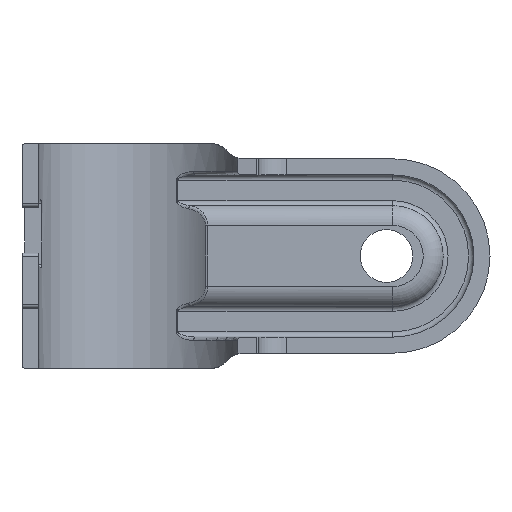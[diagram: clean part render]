
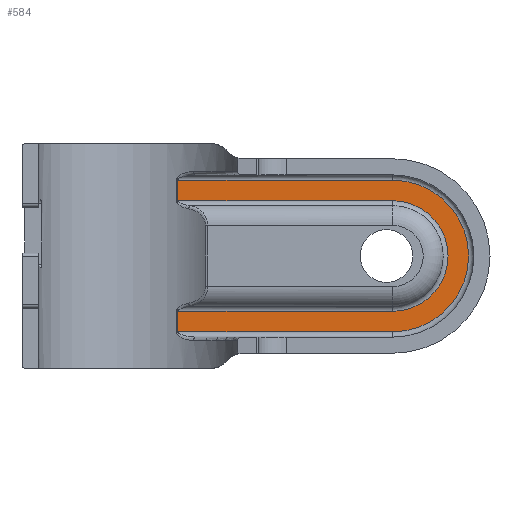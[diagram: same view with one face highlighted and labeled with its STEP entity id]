
A CAD part, front view. The second image highlights one B-rep face of the part: STEP entity #584.
In plain terms, the highlighted planar face has unit normal (0, -1, 0).
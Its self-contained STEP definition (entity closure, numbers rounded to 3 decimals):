
#36 = VECTOR ( 'NONE', #1187, 1000. ) ;
#316 = VERTEX_POINT ( 'NONE', #1437 ) ;
#330 = ORIENTED_EDGE ( 'NONE', *, *, #1607, .T. ) ;
#335 = CARTESIAN_POINT ( 'NONE',  ( 5.385, 13.5, 7.877 ) ) ;
#470 = CARTESIAN_POINT ( 'NONE',  ( 5.385, 13.5, -10.8 ) ) ;
#479 = VECTOR ( 'NONE', #1410, 1000. ) ;
#506 = ORIENTED_EDGE ( 'NONE', *, *, #2447, .T. ) ;
#520 = CARTESIAN_POINT ( 'NONE',  ( 5.385, 13.5, 7.877 ) ) ;
#584 = ADVANCED_FACE ( 'NONE', ( #1287 ), #1074, .T. ) ;
#598 = EDGE_CURVE ( 'NONE', #2581, #316, #2146, .T. ) ;
#782 = ORIENTED_EDGE ( 'NONE', *, *, #598, .T. ) ;
#806 = AXIS2_PLACEMENT_3D ( 'NONE', #3989, #1505, #3665 ) ;
#1034 = VERTEX_POINT ( 'NONE', #2540 ) ;
#1074 = PLANE ( 'NONE',  #4024 ) ;
#1133 = EDGE_CURVE ( 'NONE', #1858, #2581, #3290, .T. ) ;
#1187 = DIRECTION ( 'NONE',  ( 0., 0., -1. ) ) ;
#1287 = FACE_OUTER_BOUND ( 'NONE', #2864, .T. ) ;
#1339 = CARTESIAN_POINT ( 'NONE',  ( 5.385, 13.5, -10.8 ) ) ;
#1353 = ORIENTED_EDGE ( 'NONE', *, *, #2158, .T. ) ;
#1410 = DIRECTION ( 'NONE',  ( 1., 0., 0. ) ) ;
#1437 = CARTESIAN_POINT ( 'NONE',  ( 36., 13.5, -10.8 ) ) ;
#1505 = DIRECTION ( 'NONE',  ( 0., 1., 0. ) ) ;
#1517 = CARTESIAN_POINT ( 'NONE',  ( 5.385, 13.5, 10.8 ) ) ;
#1532 = VERTEX_POINT ( 'NONE', #520 ) ;
#1569 = VECTOR ( 'NONE', #3613, 1000. ) ;
#1590 = DIRECTION ( 'NONE',  ( 0., 0., -1. ) ) ;
#1607 = EDGE_CURVE ( 'NONE', #2639, #1858, #2644, .T. ) ;
#1782 = VERTEX_POINT ( 'NONE', #3685 ) ;
#1837 = CARTESIAN_POINT ( 'NONE',  ( 36., 13.5, 0. ) ) ;
#1843 = ORIENTED_EDGE ( 'NONE', *, *, #2812, .T. ) ;
#1858 = VERTEX_POINT ( 'NONE', #3164 ) ;
#1976 = VECTOR ( 'NONE', #3646, 1000. ) ;
#2019 = ORIENTED_EDGE ( 'NONE', *, *, #3500, .T. ) ;
#2033 = ORIENTED_EDGE ( 'NONE', *, *, #3458, .T. ) ;
#2124 = DIRECTION ( 'NONE',  ( 0., 0., -1. ) ) ;
#2146 = LINE ( 'NONE', #3551, #3667 ) ;
#2158 = EDGE_CURVE ( 'NONE', #1532, #1034, #3028, .T. ) ;
#2202 = LINE ( 'NONE', #335, #3770 ) ;
#2227 = CARTESIAN_POINT ( 'NONE',  ( 36., 13.5, -7.877 ) ) ;
#2340 = DIRECTION ( 'NONE',  ( 1., 0., 0. ) ) ;
#2343 = VERTEX_POINT ( 'NONE', #1517 ) ;
#2387 = CARTESIAN_POINT ( 'NONE',  ( 9.999, 13.5, -7.877 ) ) ;
#2433 = DIRECTION ( 'NONE',  ( 0., -1., 0. ) ) ;
#2447 = EDGE_CURVE ( 'NONE', #2343, #1532, #2202, .T. ) ;
#2459 = ORIENTED_EDGE ( 'NONE', *, *, #1133, .T. ) ;
#2535 = LINE ( 'NONE', #3352, #1569 ) ;
#2540 = CARTESIAN_POINT ( 'NONE',  ( 36., 13.5, 7.877 ) ) ;
#2581 = VERTEX_POINT ( 'NONE', #470 ) ;
#2639 = VERTEX_POINT ( 'NONE', #2227 ) ;
#2644 = LINE ( 'NONE', #2387, #1976 ) ;
#2725 = CIRCLE ( 'NONE', #806, 7.877 ) ;
#2778 = AXIS2_PLACEMENT_3D ( 'NONE', #1837, #2433, #2124 ) ;
#2812 = EDGE_CURVE ( 'NONE', #1782, #2343, #2535, .T. ) ;
#2864 = EDGE_LOOP ( 'NONE', ( #330, #2459, #782, #2033, #1843, #506, #1353, #2019 ) ) ;
#2919 = DIRECTION ( 'NONE',  ( 0., 0., -1. ) ) ;
#3028 = LINE ( 'NONE', #3654, #479 ) ;
#3164 = CARTESIAN_POINT ( 'NONE',  ( 5.385, 13.5, -7.877 ) ) ;
#3271 = DIRECTION ( 'NONE',  ( 0., -1., 0. ) ) ;
#3290 = LINE ( 'NONE', #1339, #36 ) ;
#3352 = CARTESIAN_POINT ( 'NONE',  ( 9.999, 13.5, 10.8 ) ) ;
#3424 = CIRCLE ( 'NONE', #2778, 10.8 ) ;
#3458 = EDGE_CURVE ( 'NONE', #316, #1782, #3424, .T. ) ;
#3500 = EDGE_CURVE ( 'NONE', #1034, #2639, #2725, .T. ) ;
#3551 = CARTESIAN_POINT ( 'NONE',  ( 36., 13.5, -10.8 ) ) ;
#3613 = DIRECTION ( 'NONE',  ( -1., 0., 0. ) ) ;
#3646 = DIRECTION ( 'NONE',  ( -1., 0., 0. ) ) ;
#3654 = CARTESIAN_POINT ( 'NONE',  ( 36., 13.5, 7.877 ) ) ;
#3665 = DIRECTION ( 'NONE',  ( 0., 0., -1. ) ) ;
#3667 = VECTOR ( 'NONE', #2340, 1000. ) ;
#3685 = CARTESIAN_POINT ( 'NONE',  ( 36., 13.5, 10.8 ) ) ;
#3770 = VECTOR ( 'NONE', #1590, 1000. ) ;
#3884 = CARTESIAN_POINT ( 'NONE',  ( -16.801, 13.5, 7.3 ) ) ;
#3989 = CARTESIAN_POINT ( 'NONE',  ( 36., 13.5, 0. ) ) ;
#4024 = AXIS2_PLACEMENT_3D ( 'NONE', #3884, #3271, #2919 ) ;
